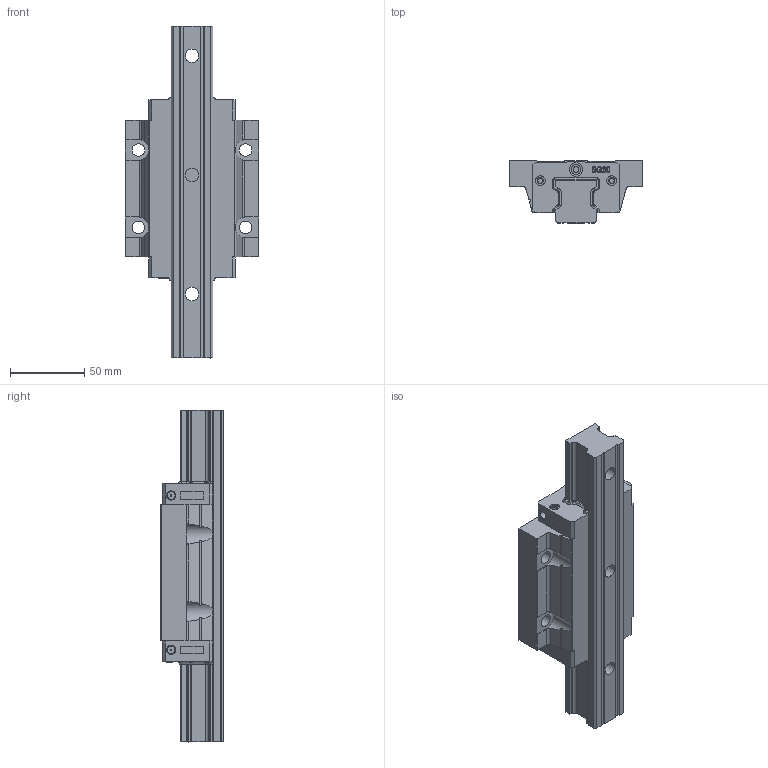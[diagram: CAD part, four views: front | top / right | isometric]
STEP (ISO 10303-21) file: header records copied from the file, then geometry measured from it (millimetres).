
FILE_DESCRIPTION(/* description */ (''),/* implementation_level */ '2;1');
FILE_NAME(/* name */ 'SGH30AL.stp',/* time_stamp */ '2021-05-27T16:18:26+08:00',/* author */ (''),/* organization */ (''),/* preprocessor_version */ 'ST-DEVELOPER v15',/* originating_system */ 'SIEMENS PLM Software NX 8.5',/* authorisation */ '');
FILE_SCHEMA (('CONFIG_CONTROL_DESIGN'));
Length unit declared in the file: millimetre
Products named in the file (1): SGH30AL
Bounding box: 90 x 42 x 223 mm (x, y, z)
Volume: 375752.5 mm3; surface area: 72012.6 mm2
Topology: 2 solids, 2 shells, 515 faces, 1410 edges, 942 vertices
Faces by surface type: plane 230, extrusion 122, cylinder 116, cone 47
Full cylindrical faces by diameter (mm): 1 x4, 3.5 x4, 4 x2, 4.1 x4, 5.2 x4, 6.5 x6, 8.5 x4, 9 x3, 9.1 x2, 14 x3
Entity records: 18192 total; most frequent: CARTESIAN_POINT 5720, ORIENTED_EDGE 2678, DIRECTION 2216, EDGE_CURVE 1339, VERTEX_POINT 919, VECTOR 830, LINE 708, AXIS2_PLACEMENT_3D 693
